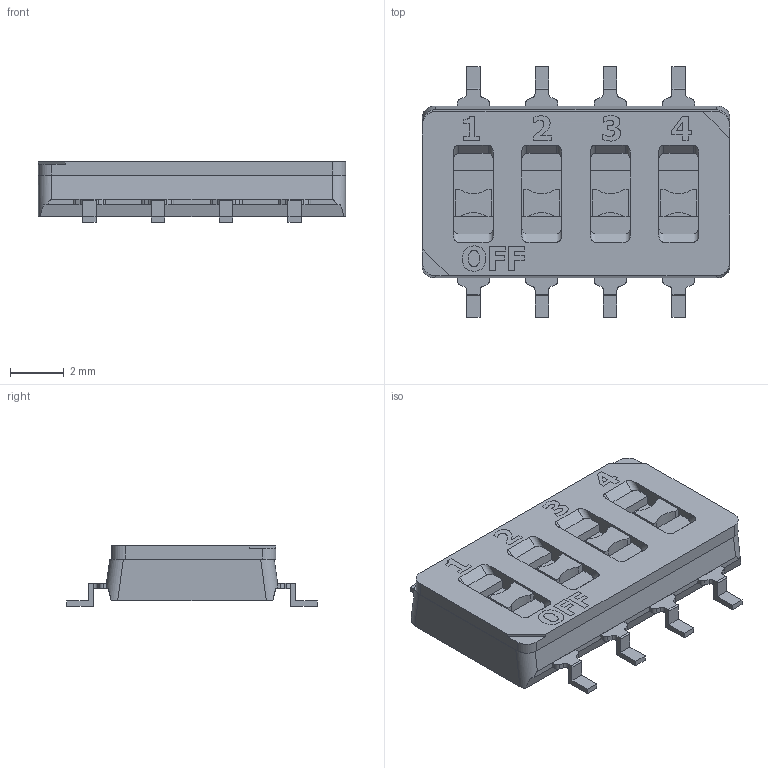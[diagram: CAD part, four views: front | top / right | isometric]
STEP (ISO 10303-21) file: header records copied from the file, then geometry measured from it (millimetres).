
FILE_DESCRIPTION((''),'2;1');
FILE_NAME('Z:\CAD\0-cad\1AUTOCAD2012\4外観図\04-LDS,LSM\SMS504\SMS504.stp','2015-10-08T11:40:29',('Administrator'),(''),'Autodesk Inventor 2012','Autodesk Inventor 2012','');
FILE_SCHEMA(('AUTOMOTIVE_DESIGN { 1 0 10303 214 1 1 1 1 }'));
Length unit declared in the file: millimetre
Products named in the file (5): Assembly1; Part1; Part2; Part3; Part4
Assembly tree (7 placements, depth 2):
  Assembly1
    Part1
    Part2
    Part3  x4
    Part4
Bounding box: 11.4 x 9.3 x 2.25 mm (x, y, z)
Volume: 124.2 mm3; surface area: 542.8 mm2
Topology: 14 solids, 14 shells, 333 faces, 971 edges, 681 vertices
Faces by surface type: plane 253, cylinder 80
Entity records: 10111 total; most frequent: CARTESIAN_POINT 1949, ORIENTED_EDGE 1726, DIRECTION 1580, EDGE_CURVE 863, VECTOR 660, LINE 660, VERTEX_POINT 609, AXIS2_PLACEMENT_3D 460
